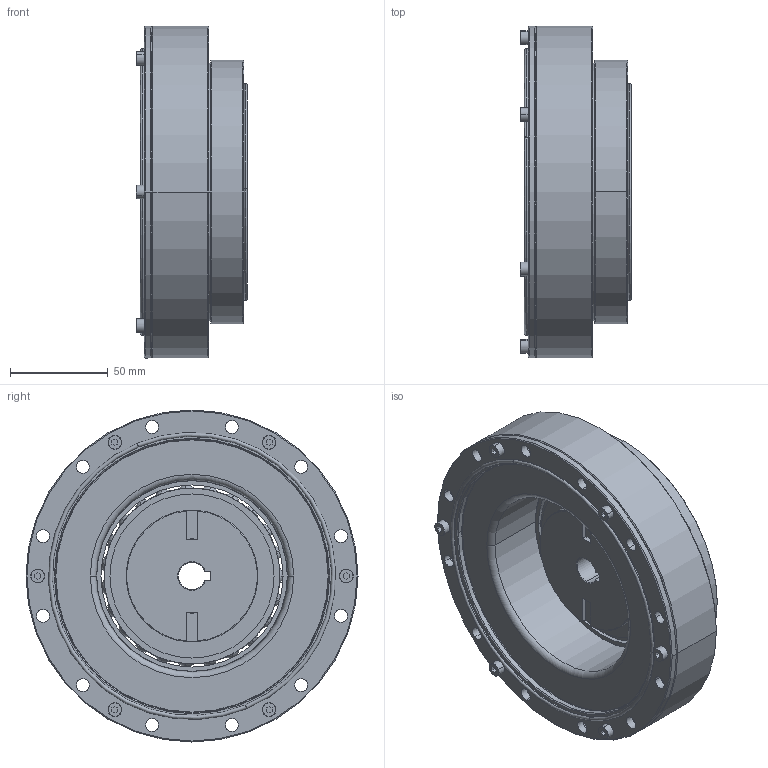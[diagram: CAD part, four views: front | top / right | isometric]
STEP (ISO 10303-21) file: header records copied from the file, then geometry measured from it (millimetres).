
FILE_DESCRIPTION (( 'STEP AP203' ), '1' );
FILE_NAME ('FHG-40-XXX-SO.STEP', '2023-01-30T01:45:30', ( '微软用户' ), ( '微软中国' ), 'SwSTEP 2.0', 'SolidWorks 2016', '' );
FILE_SCHEMA (( 'CONFIG_CONTROL_DESIGN' ));
Length unit declared in the file: millimetre
Products named in the file (1): FHG-40-XXX-SO
Bounding box: 57 x 170 x 170 mm (x, y, z)
Volume: 630329.7 mm3; surface area: 286791.3 mm2
Topology: 50 solids, 50 shells, 880 faces, 2167 edges, 1352 vertices
Faces by surface type: cylinder 373, plane 236, cone 147, torus 78, sphere 46
Entity records: 25354 total; most frequent: DIRECTION 4873, CARTESIAN_POINT 4248, ORIENTED_EDGE 4000, AXIS2_PLACEMENT_3D 2020, EDGE_CURVE 2000, VERTEX_POINT 1283, CIRCLE 1139, EDGE_LOOP 1079
